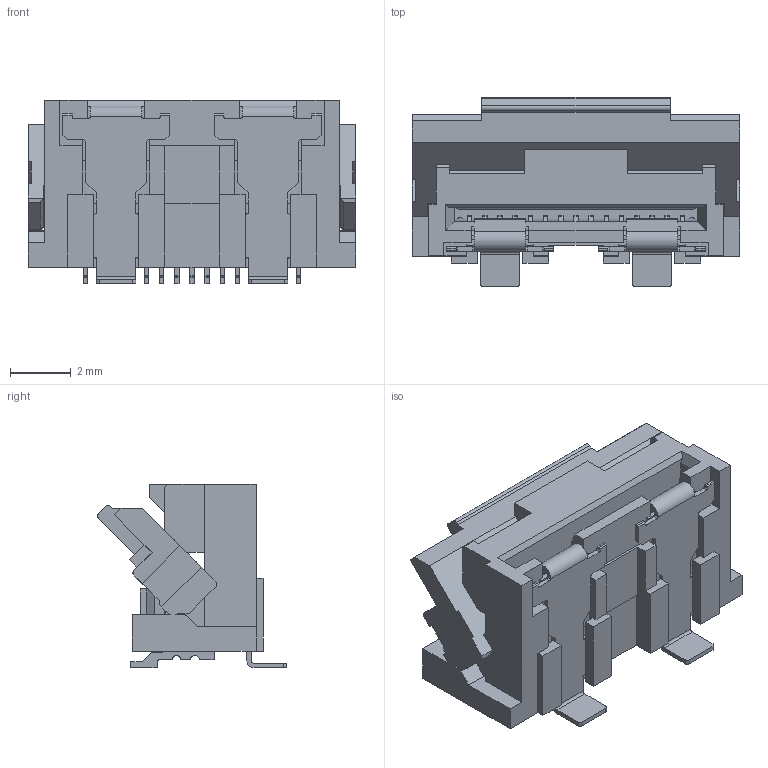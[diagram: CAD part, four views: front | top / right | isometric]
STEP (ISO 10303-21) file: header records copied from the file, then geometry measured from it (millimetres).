
FILE_DESCRIPTION(/* description */ (''),/* implementation_level */ '2;1');
FILE_NAME(/* name */ '5022311000_open_stp.stp',/* time_stamp */ '2017-11-29T16:01:57+09:00',/* author */ (''),/* organization */ (''),/* preprocessor_version */ 'ST-DEVELOPER v15',/* originating_system */ 'SIEMENS PLM Software NX 8.5',/* authorisation */ '');
FILE_SCHEMA (('AUTOMOTIVE_DESIGN { 1 0 10303 214 3 1 1 1 }'));
Length unit declared in the file: millimetre
Products named in the file (1): yche32FCB9375ufe
Bounding box: 10.8 x 6.22 x 6.05 mm (x, y, z)
Volume: 153.3 mm3; surface area: 597.6 mm2
Topology: 1 solids, 1 shells, 1096 faces, 3227 edges, 2131 vertices
Faces by surface type: plane 928, cylinder 168
Entity records: 36109 total; most frequent: CARTESIAN_POINT 6455, ORIENTED_EDGE 6454, DIRECTION 5771, EDGE_CURVE 3227, LINE 2877, VECTOR 2877, VERTEX_POINT 2131, AXIS2_PLACEMENT_3D 1447
